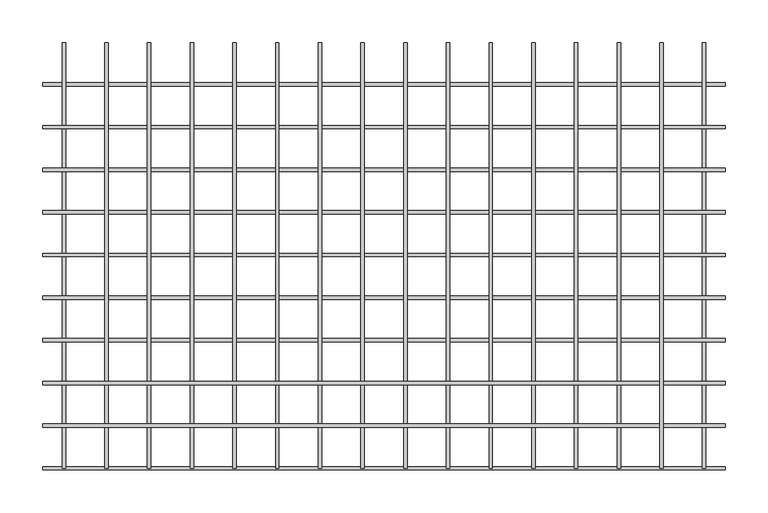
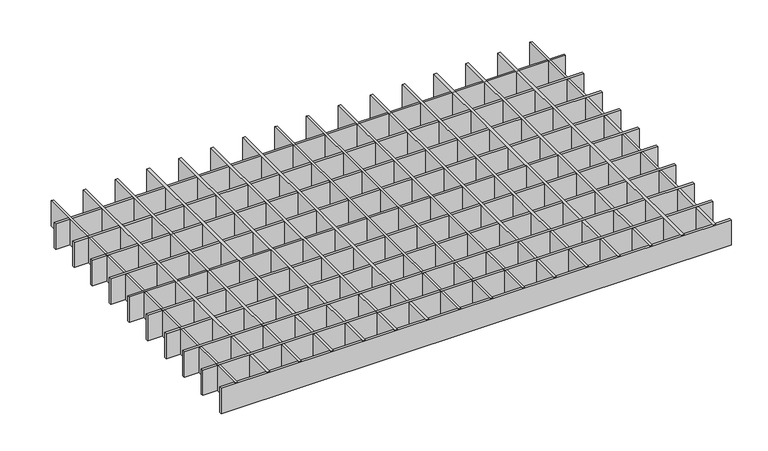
"""IFC4 building model written with IfcOpenShell, lengths in millimetres: proxy geometry, durlum_GEO_panel : durlum_GEO_4_corner_cut."""

from ifc_helpers import new_model, si_unit, origin, origin_with_axes, place, context, project, spatial, polyline, outline, extrude, source, transform, mapped, element, save


def generic_models_ec955ca2(model_context):
    return source(origin(), model_context, "Body", "SweptSolid", [
        extrude(outline(polyline([(323.0, 249.5), (327.0, 249.5), (327.0, -249.5), (323.0, -249.5), (323.0, 249.5)])), origin_with_axes(), (0.0, 0.0, 1.0), 42.0),
        extrude(outline(polyline([(399.75, -197.5), (399.75, -201.5), (-399.75, -201.5), (-399.75, -197.5), (399.75, -197.5)])), origin_with_axes(), (0.0, 0.0, 1.0), 42.0),
        extrude(outline(polyline([(399.75, -147.5), (399.75, -151.5), (-399.75, -151.5), (-399.75, -147.5), (399.75, -147.5)])), origin_with_axes(), (0.0, 0.0, 1.0), 42.0),
        extrude(outline(polyline([(273.0, 249.5), (277.0, 249.5), (277.0, -249.5), (273.0, -249.5), (273.0, 249.5)])), origin_with_axes(), (0.0, 0.0, 1.0), 42.0),
        extrude(outline(polyline([(223.0, 249.5), (227.0, 249.5), (227.0, -249.5), (223.0, -249.5), (223.0, 249.5)])), origin_with_axes(), (0.0, 0.0, 1.0), 42.0),
        extrude(outline(polyline([(173.0, 249.5), (177.0, 249.5), (177.0, -249.5), (173.0, -249.5), (173.0, 249.5)])), origin_with_axes(), (0.0, 0.0, 1.0), 42.0),
        extrude(outline(polyline([(123.0, 249.5), (127.0, 249.5), (127.0, -249.5), (123.0, -249.5), (123.0, 249.5)])), origin_with_axes(), (0.0, 0.0, 1.0), 42.0),
        extrude(outline(polyline([(73.0, 249.5), (77.0, 249.5), (77.0, -249.5), (73.0, -249.5), (73.0, 249.5)])), origin_with_axes(), (0.0, 0.0, 1.0), 42.0),
        extrude(outline(polyline([(23.0, 249.5), (27.0, 249.5), (27.0, -249.5), (23.0, -249.5), (23.0, 249.5)])), origin_with_axes(), (0.0, 0.0, 1.0), 42.0),
        extrude(outline(polyline([(-27.0, 249.5), (-23.0, 249.5), (-23.0, -249.5), (-27.0, -249.5), (-27.0, 249.5)])), origin_with_axes(), (0.0, 0.0, 1.0), 42.0),
        extrude(outline(polyline([(-77.0, 249.5), (-73.0, 249.5), (-73.0, -249.5), (-77.0, -249.5), (-77.0, 249.5)])), origin_with_axes(), (0.0, 0.0, 1.0), 42.0),
        extrude(outline(polyline([(-127.0, 249.5), (-123.0, 249.5), (-123.0, -249.5), (-127.0, -249.5), (-127.0, 249.5)])), origin_with_axes(), (0.0, 0.0, 1.0), 42.0),
        extrude(outline(polyline([(-177.0, 249.5), (-173.0, 249.5), (-173.0, -249.5), (-177.0, -249.5), (-177.0, 249.5)])), origin_with_axes(), (0.0, 0.0, 1.0), 42.0),
        extrude(outline(polyline([(-227.0, 249.5), (-223.0, 249.5), (-223.0, -249.5), (-227.0, -249.5), (-227.0, 249.5)])), origin_with_axes(), (0.0, 0.0, 1.0), 42.0),
        extrude(outline(polyline([(-277.0, 249.5), (-273.0, 249.5), (-273.0, -249.5), (-277.0, -249.5), (-277.0, 249.5)])), origin_with_axes(), (0.0, 0.0, 1.0), 42.0),
        extrude(outline(polyline([(-327.0, 249.5), (-323.0, 249.5), (-323.0, -249.5), (-327.0, -249.5), (-327.0, 249.5)])), origin_with_axes(), (0.0, 0.0, 1.0), 42.0),
        extrude(outline(polyline([(399.75, -97.5), (399.75, -101.5), (-399.75, -101.5), (-399.75, -97.5), (399.75, -97.5)])), origin_with_axes(), (0.0, 0.0, 1.0), 42.0),
        extrude(outline(polyline([(399.75, -47.5), (399.75, -51.5), (-399.75, -51.5), (-399.75, -47.5), (399.75, -47.5)])), origin_with_axes(), (0.0, 0.0, 1.0), 42.0),
        extrude(outline(polyline([(399.75, 2.5), (399.75, -1.5), (-399.75, -1.5), (-399.75, 2.5), (399.75, 2.5)])), origin_with_axes(), (0.0, 0.0, 1.0), 42.0),
        extrude(outline(polyline([(399.75, 52.5), (399.75, 48.5), (-399.75, 48.5), (-399.75, 52.5), (399.75, 52.5)])), origin_with_axes(), (0.0, 0.0, 1.0), 42.0),
        extrude(outline(polyline([(399.75, 102.5), (399.75, 98.5), (-399.75, 98.5), (-399.75, 102.5), (399.75, 102.5)])), origin_with_axes(), (0.0, 0.0, 1.0), 42.0),
        extrude(outline(polyline([(399.75, 152.5), (399.75, 148.5), (-399.75, 148.5), (-399.75, 152.5), (399.75, 152.5)])), origin_with_axes(), (0.0, 0.0, 1.0), 42.0),
        extrude(outline(polyline([(373.0, 249.5), (377.0, 249.5), (377.0, -249.5), (373.0, -249.5), (373.0, 249.5)])), origin_with_axes(), (0.0, 0.0, 1.0), 42.0),
        extrude(outline(polyline([(-377.0, 249.5), (-373.0, 249.5), (-373.0, -249.5), (-377.0, -249.5), (-377.0, 249.5)])), origin_with_axes(), (0.0, 0.0, 1.0), 42.0),
        extrude(outline(polyline([(399.75, -247.5), (399.75, -251.5), (-399.75, -251.5), (-399.75, -247.5), (399.75, -247.5)])), origin_with_axes(), (0.0, 0.0, 1.0), 42.0),
        extrude(outline(polyline([(399.75, 202.5), (399.75, 198.5), (-399.75, 198.5), (-399.75, 202.5), (399.75, 202.5)])), origin_with_axes(), (0.0, 0.0, 1.0), 42.0),
    ])


if __name__ == "__main__":
    model = new_model("IFC4")
    model_context = context("Model", 3, world=origin())
    ifc_project = project(units=[si_unit("LENGTHUNIT", "METRE", prefix="MILLI")], contexts=[model_context])
    site = spatial("IfcSite", under=ifc_project)
    building = spatial("IfcBuilding", under=site)
    placement = place(None, origin())
    generic_models_shape = generic_models_ec955ca2(model_context)
    element("IfcBuildingElementProxy", 1, Name="durlum_GEO_panel : durlum_GEO_4_corner_cut", ObjectType="durlum_GEO_panel : durlum_GEO_4_corner_cut", at=placement, inside=building, context=model_context, shape_type="MappedRepresentation", body=[
        mapped(generic_models_shape, transform((0.0, 0.0, 0.0), x_axis=(1.0, 0.0, 0.0), y_axis=(0.0, 1.0, 0.0), z_axis=(0.0, 0.0, 1.0))),
    ])
    save(model, "model.ifc")
